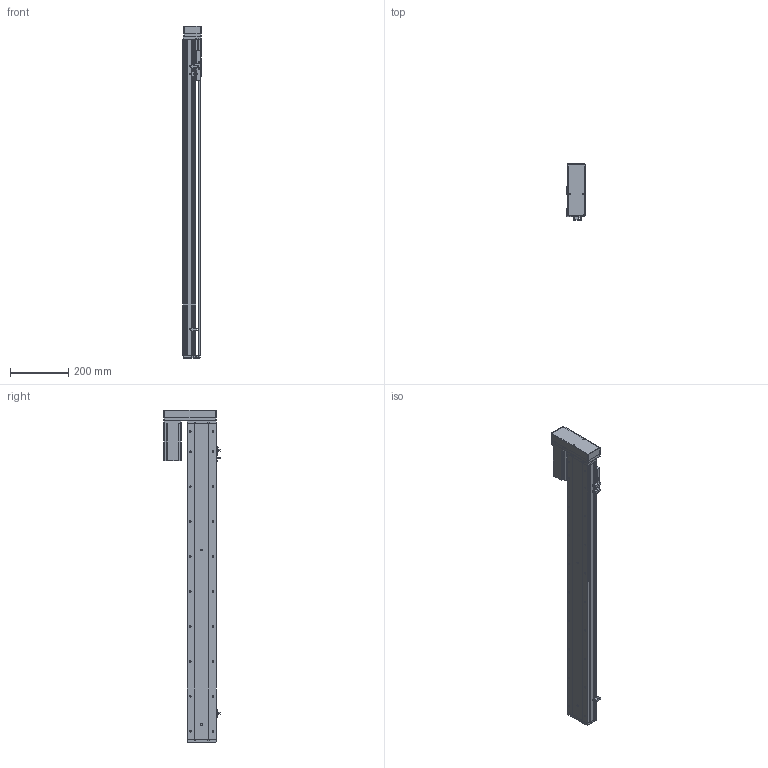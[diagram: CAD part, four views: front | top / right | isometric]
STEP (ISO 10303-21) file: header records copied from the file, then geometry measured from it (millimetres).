
FILE_DESCRIPTION (( 'STEP AP214' ), '1' );
FILE_NAME ('KSD100S-S900-ML-CM.STEP', '2019-08-30T06:36:10', ( '微软用户' ), ( '微软中国' ), 'SwSTEP 2.0', 'SolidWorks 2014', '' );
FILE_SCHEMA (( 'AUTOMOTIVE_DESIGN' ));
Length unit declared in the file: millimetre
Products named in the file (11): 100遵鎮湛假蚾啣; 100宽滚珠螺姆安装板半封闭; 100遵傷啣; 100宽底板半封闭丝杆900行程; KSD100S-S900-ML-CM; 悵誘欶酘衵殏; 台达ECMA－C20604AS伺服电机; 100宽马达安装板连板左右折丝杆; U倰嫖萇EEㄜSX672; 覜茼え100遵圉猾敕; 100宽防尘板丝杆900行程
Assembly tree (12 placements, depth 2):
  KSD100S-S900-ML-CM
    100宽底板半封闭丝杆900行程
    100遵傷啣
    100宽滚珠螺姆安装板半封闭
    100遵鎮湛假蚾啣
    100宽防尘板丝杆900行程
    覜茼え100遵圉猾敕
    U倰嫖萇EEㄜSX672  x3
    100宽马达安装板连板左右折丝杆
    台达ECMA－C20604AS伺服电机
    悵誘欶酘衵殏
Bounding box: 62 x 193.7 x 1140.5 mm (x, y, z)
Volume: 2699768.5 mm3; surface area: 882920 mm2
Topology: 13 solids, 13 shells, 1343 faces, 3794 edges, 2391 vertices
Faces by surface type: cylinder 672, plane 516, cone 155
Entity records: 47415 total; most frequent: CARTESIAN_POINT 9555, DIRECTION 6421, ORIENTED_EDGE 6184, EDGE_CURVE 3092, AXIS2_PLACEMENT_3D 2349, VERTEX_POINT 2015, LINE 1723, VECTOR 1723
